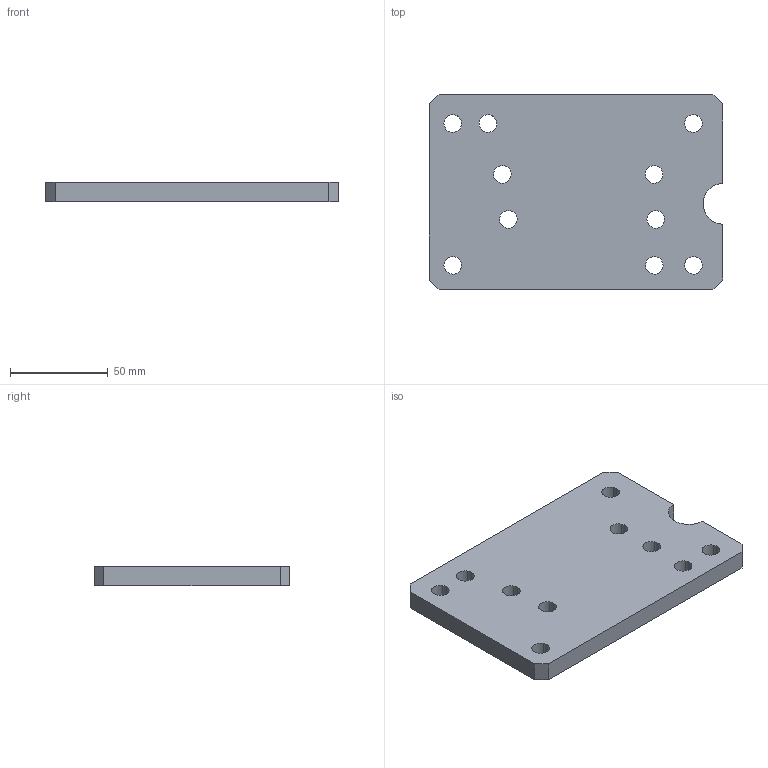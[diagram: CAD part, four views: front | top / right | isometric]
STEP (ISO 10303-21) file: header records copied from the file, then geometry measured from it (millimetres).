
FILE_DESCRIPTION(('CATIA V5 STEP Exchange','CAx-IF Rec.Pracs.--- Model Styling and Organization---1.5--- 2016-08-15','CAx-IF Rec.Pracs.---Supplemental Geometry---1.0---2011-11-01','CAx-IF Rec.Pracs.--- Composite Materials ---1.1---2010-07-15','CAx-IF Rec.Pracs.---External References---2.1---2005-01-19'),'2;1');
FILE_NAME('E:\WAT\Sprezarka\121_00_00_Tlocznik1\Tlocznik1_KPL\Tlocznik1_stp\121_03_55_Przekladka.stp','2023-08-01T08:49:44+00:00',('none'),('none'),'CATIA Version 5-6 Release 2022 SP3','CATIA V5 STEP AP214 v2','none');
FILE_SCHEMA(('AUTOMOTIVE_DESIGN { 1 0 10303 214 1 1 1 1 }'));
Length unit declared in the file: millimetre
Products named in the file (1): 121_03_55_Przekladka
Bounding box: 150 x 100 x 10 mm (x, y, z)
Volume: 141511.4 mm3; surface area: 36122.7 mm2
Topology: 1 solids, 1 shells, 33 faces, 93 edges, 62 vertices
Faces by surface type: cylinder 22, plane 11
Entity records: 1094 total; most frequent: ORIENTED_EDGE 186, CARTESIAN_POINT 177, DIRECTION 135, EDGE_CURVE 93, AXIS2_PLACEMENT_3D 66, VERTEX_POINT 62, EDGE_LOOP 53, VECTOR 49
